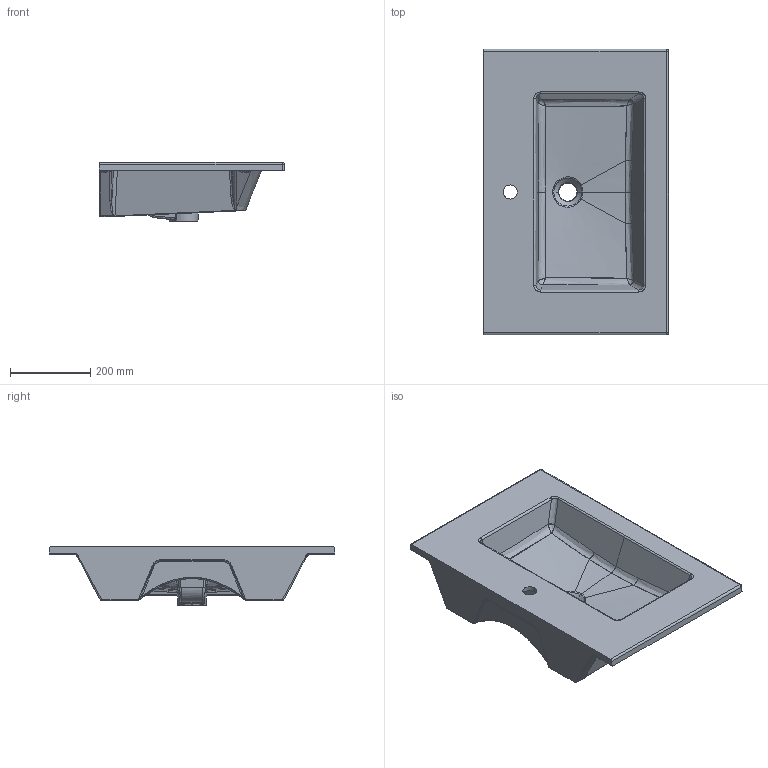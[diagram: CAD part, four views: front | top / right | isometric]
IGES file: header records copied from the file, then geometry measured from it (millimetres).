
Start section: START RECORD GO HERE.
Global section: file name: LAVABO 71 X46.igs; native system: DASSAULT SYSTEMES CATIA V5 R19 - www.3ds.com; preprocessor: CATIA Version 5 Release 19 SP 5 ; author: Luca; organization: DESKTOP-V7SON24; date: 20200124.162244; units: millimetre
Bounding box: 460.7 x 711.4 x 147.5 mm (x, y, z)
Surface area: 1047081.7 mm2 (no closed solid volume)
Topology: 0 solids, 0 shells, 428 faces, 1998 edges, 1960 vertices
Faces by surface type: bspline 235, revolution 171, plane 20, extrusion 2
